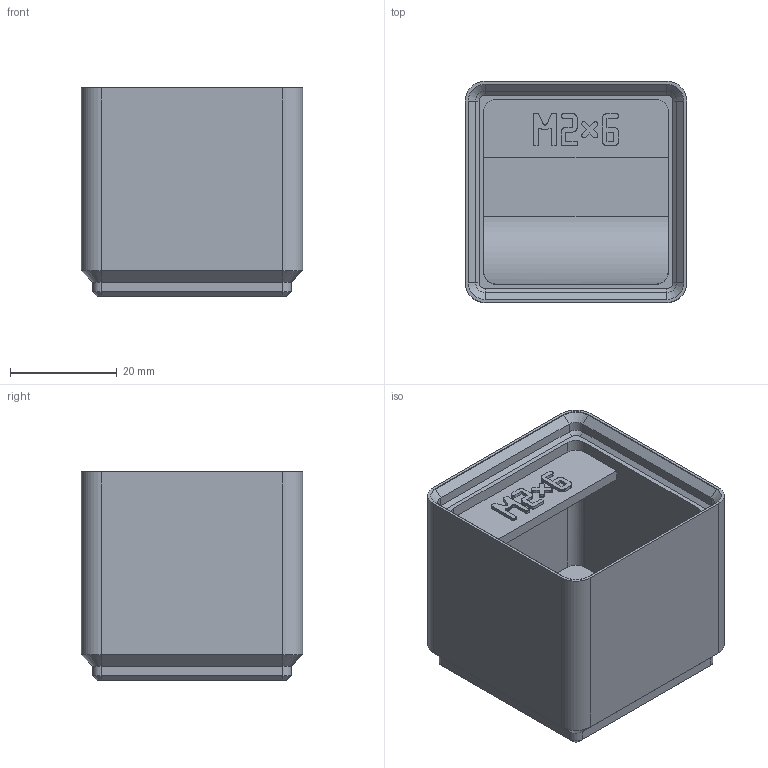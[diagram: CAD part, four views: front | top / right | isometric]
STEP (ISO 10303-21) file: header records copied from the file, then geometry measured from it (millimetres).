
FILE_DESCRIPTION(('Open CASCADE Model'),'2;1');
FILE_NAME('m2-screw-6','2026-11-17T16:07:49',('Author'),('Open CASCADE') ,'Open CASCADE STEP processor 8.0','build123d','Unknown');
FILE_SCHEMA(('AUTOMOTIVE_DESIGN { 1 0 10303 214 1 1 1 1 }'));
Length unit declared in the file: millimetre
Products named in the file (1): m2-screw-6
Bounding box: 41.5 x 41.5 x 39 mm (x, y, z)
Volume: 30857.6 mm3; surface area: 13667.2 mm2
Topology: 1 solids, 1 shells, 523 faces, 1494 edges, 980 vertices
Faces by surface type: plane 484, cylinder 22, cone 16, extrusion 1
Entity records: 35424 total; most frequent: CARTESIAN_POINT 7383, DIRECTION 4543, VECTOR 3375, LINE 3374, ORIENTED_EDGE 2988, PCURVE 2988, DEFINITIONAL_REPRESENTATION 2988, EDGE_CURVE 1494
